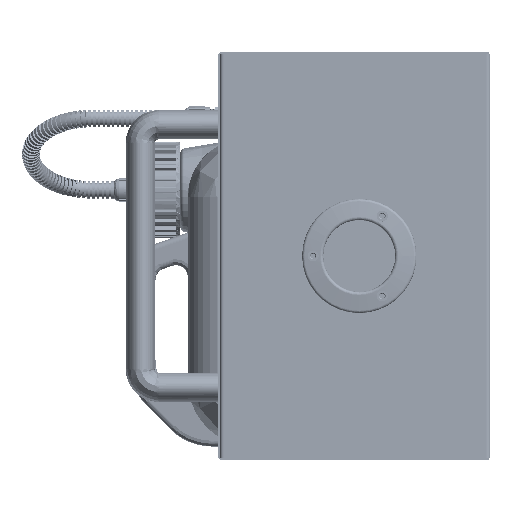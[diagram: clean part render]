
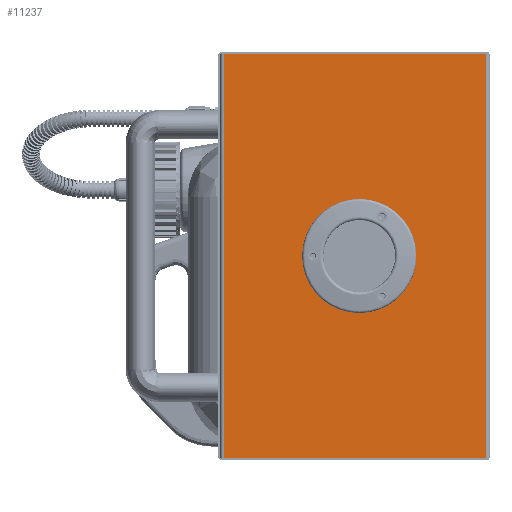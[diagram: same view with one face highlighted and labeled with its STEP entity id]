
A CAD part, left-side view. The second image highlights one B-rep face of the part: STEP entity #11237.
In plain terms, the highlighted planar face has unit normal (-1, 0, 0).
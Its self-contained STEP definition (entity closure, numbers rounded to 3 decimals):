
#5795=DIRECTION('',(0.,0.,1.));
#5796=VECTOR('',#5795,275.2);
#5797=CARTESIAN_POINT('',(-273.75,2.4,-137.6));
#5798=LINE('',#5797,#5796);
#5821=DIRECTION('',(0.,1.,0.));
#5822=VECTOR('',#5821,179.3);
#5823=CARTESIAN_POINT('',(-273.75,2.4,137.6));
#5824=LINE('',#5823,#5822);
#5825=DIRECTION('',(0.,-1.,0.));
#5826=VECTOR('',#5825,179.3);
#5827=CARTESIAN_POINT('',(-273.75,181.7,-137.6));
#5828=LINE('',#5827,#5826);
#5829=CARTESIAN_POINT('',(-273.75,89.2,0.));
#5830=DIRECTION('',(-1.,0.,0.));
#5831=DIRECTION('',(0.,0.,-1.));
#5832=AXIS2_PLACEMENT_3D('',#5829,#5830,#5831);
#5834=CARTESIAN_POINT('',(-273.75,89.2,0.));
#5835=DIRECTION('',(-1.,0.,0.));
#5836=DIRECTION('',(0.,0.,1.));
#5837=AXIS2_PLACEMENT_3D('',#5834,#5835,#5836);
#5856=DIRECTION('',(0.,0.,1.));
#5857=VECTOR('',#5856,275.2);
#5858=CARTESIAN_POINT('',(-273.75,181.7,-137.6));
#5859=LINE('',#5858,#5857);
#6058=CARTESIAN_POINT('',(-273.75,73.45,27.28));
#6059=DIRECTION('',(-1.,0.,0.));
#6060=DIRECTION('',(0.,0.,1.));
#6061=AXIS2_PLACEMENT_3D('',#6058,#6059,#6060);
#6139=CARTESIAN_POINT('',(-273.75,73.45,27.28));
#6140=DIRECTION('',(-1.,0.,0.));
#6141=DIRECTION('',(0.,0.,-1.));
#6142=AXIS2_PLACEMENT_3D('',#6139,#6140,#6141);
#6230=CARTESIAN_POINT('',(-273.75,120.7,0.));
#6231=DIRECTION('',(-1.,0.,0.));
#6232=DIRECTION('',(0.,0.,1.));
#6233=AXIS2_PLACEMENT_3D('',#6230,#6231,#6232);
#6311=CARTESIAN_POINT('',(-273.75,120.7,0.));
#6312=DIRECTION('',(-1.,0.,0.));
#6313=DIRECTION('',(0.,0.,-1.));
#6314=AXIS2_PLACEMENT_3D('',#6311,#6312,#6313);
#6402=CARTESIAN_POINT('',(-273.75,73.45,-27.28));
#6403=DIRECTION('',(-1.,0.,0.));
#6404=DIRECTION('',(0.,0.,1.));
#6405=AXIS2_PLACEMENT_3D('',#6402,#6403,#6404);
#6483=CARTESIAN_POINT('',(-273.75,73.45,-27.28));
#6484=DIRECTION('',(-1.,0.,0.));
#6485=DIRECTION('',(0.,0.,-1.));
#6486=AXIS2_PLACEMENT_3D('',#6483,#6484,#6485);
#10035=CARTESIAN_POINT('',(-273.75,2.4,-137.6));
#10036=CARTESIAN_POINT('',(-273.75,2.4,137.6));
#10037=VERTEX_POINT('',#10035);
#10038=VERTEX_POINT('',#10036);
#10863=CARTESIAN_POINT('',(-273.75,89.2,-27.5));
#10864=CARTESIAN_POINT('',(-273.75,89.2,27.5));
#10865=VERTEX_POINT('',#10863);
#10866=VERTEX_POINT('',#10864);
#10868=CARTESIAN_POINT('',(-273.75,73.45,30.23));
#10870=VERTEX_POINT('',#10868);
#10872=CARTESIAN_POINT('',(-273.75,73.45,24.33));
#10874=VERTEX_POINT('',#10872);
#10908=CARTESIAN_POINT('',(-273.75,120.7,2.95));
#10910=VERTEX_POINT('',#10908);
#10912=CARTESIAN_POINT('',(-273.75,120.7,-2.95));
#10914=VERTEX_POINT('',#10912);
#10948=CARTESIAN_POINT('',(-273.75,73.45,-24.33));
#10950=VERTEX_POINT('',#10948);
#10952=CARTESIAN_POINT('',(-273.75,73.45,-30.23));
#10954=VERTEX_POINT('',#10952);
#11115=CARTESIAN_POINT('',(-273.75,181.7,137.6));
#11116=VERTEX_POINT('',#11115);
#11117=CARTESIAN_POINT('',(-273.75,181.7,-137.6));
#11118=VERTEX_POINT('',#11117);
#11199=CARTESIAN_POINT('',(-273.75,0.,137.6));
#11200=DIRECTION('',(-1.,0.,0.));
#11201=DIRECTION('',(0.,0.,1.));
#11202=AXIS2_PLACEMENT_3D('',#11199,#11200,#11201);
#11203=PLANE('',#11202);
#11205=ORIENTED_EDGE('',*,*,#11204,.F.);
#11206=ORIENTED_EDGE('',*,*,#11184,.F.);
#11208=ORIENTED_EDGE('',*,*,#11207,.F.);
#11210=ORIENTED_EDGE('',*,*,#11209,.T.);
#11211=EDGE_LOOP('',(#11205,#11206,#11208,#11210));
#11212=FACE_OUTER_BOUND('',#11211,.F.);
#11214=ORIENTED_EDGE('',*,*,#11213,.T.);
#11216=ORIENTED_EDGE('',*,*,#11215,.T.);
#11217=EDGE_LOOP('',(#11214,#11216));
#11218=FACE_BOUND('',#11217,.F.);
#11220=ORIENTED_EDGE('',*,*,#11219,.T.);
#11222=ORIENTED_EDGE('',*,*,#11221,.T.);
#11223=EDGE_LOOP('',(#11220,#11222));
#11224=FACE_BOUND('',#11223,.F.);
#11226=ORIENTED_EDGE('',*,*,#11225,.T.);
#11228=ORIENTED_EDGE('',*,*,#11227,.T.);
#11229=EDGE_LOOP('',(#11226,#11228));
#11230=FACE_BOUND('',#11229,.F.);
#11232=ORIENTED_EDGE('',*,*,#11231,.T.);
#11234=ORIENTED_EDGE('',*,*,#11233,.T.);
#11235=EDGE_LOOP('',(#11232,#11234));
#11236=FACE_BOUND('',#11235,.F.);
#11237=ADVANCED_FACE('',(#11212,#11218,#11224,#11230,#11236),#11203,.T.);
#5833=CIRCLE('',#5832,27.5);
#5838=CIRCLE('',#5837,27.5);
#6062=CIRCLE('',#6061,2.95);
#6143=CIRCLE('',#6142,2.95);
#6234=CIRCLE('',#6233,2.95);
#6315=CIRCLE('',#6314,2.95);
#6406=CIRCLE('',#6405,2.95);
#6487=CIRCLE('',#6486,2.95);
#11184=EDGE_CURVE('',#10037,#10038,#5798,.T.);
#11204=EDGE_CURVE('',#10038,#11116,#5824,.T.);
#11207=EDGE_CURVE('',#11118,#10037,#5828,.T.);
#11209=EDGE_CURVE('',#11118,#11116,#5859,.T.);
#11213=EDGE_CURVE('',#10865,#10866,#5833,.T.);
#11215=EDGE_CURVE('',#10866,#10865,#5838,.T.);
#11219=EDGE_CURVE('',#10870,#10874,#6062,.T.);
#11221=EDGE_CURVE('',#10874,#10870,#6143,.T.);
#11225=EDGE_CURVE('',#10910,#10914,#6234,.T.);
#11227=EDGE_CURVE('',#10914,#10910,#6315,.T.);
#11231=EDGE_CURVE('',#10950,#10954,#6406,.T.);
#11233=EDGE_CURVE('',#10954,#10950,#6487,.T.);
